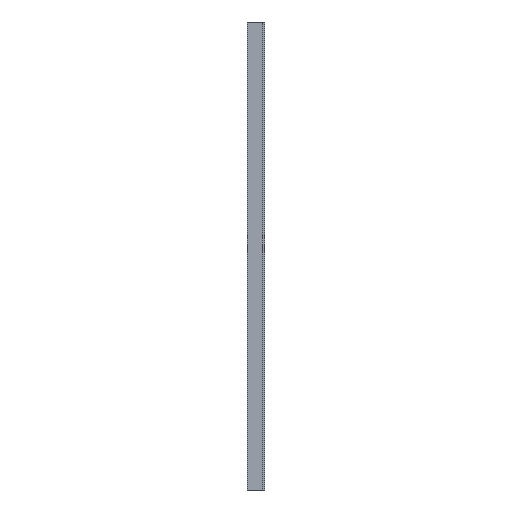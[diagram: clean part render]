
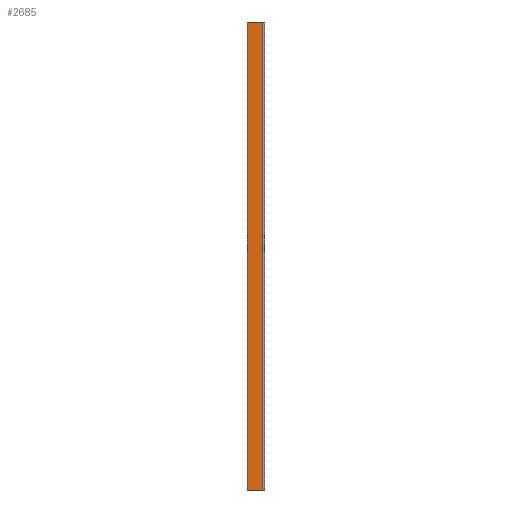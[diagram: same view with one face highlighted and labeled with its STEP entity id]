
A CAD part, front view. The second image highlights one B-rep face of the part: STEP entity #2685.
In plain terms, the highlighted planar face has unit normal (0, -1, 0).
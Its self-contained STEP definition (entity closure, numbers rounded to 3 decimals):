
#180 = EDGE_LOOP ( 'NONE', ( #1740, #7368, #5379, #1509 ) ) ;
#206 = VECTOR ( 'NONE', #390, 1000. ) ;
#390 = DIRECTION ( 'NONE',  ( 1., 0., 0. ) ) ;
#567 = CARTESIAN_POINT ( 'NONE',  ( 0., 0., 700. ) ) ;
#924 = VECTOR ( 'NONE', #7543, 1000. ) ;
#1019 = CARTESIAN_POINT ( 'NONE',  ( -75., 0., 34. ) ) ;
#1314 = CARTESIAN_POINT ( 'NONE',  ( 22., 0., 34. ) ) ;
#1398 = LINE ( 'NONE', #3340, #924 ) ;
#1406 = VECTOR ( 'NONE', #3124, 1000. ) ;
#1509 = ORIENTED_EDGE ( 'NONE', *, *, #6335, .F. ) ;
#1619 = FACE_OUTER_BOUND ( 'NONE', #180, .T. ) ;
#1740 = ORIENTED_EDGE ( 'NONE', *, *, #2146, .T. ) ;
#1894 = VERTEX_POINT ( 'NONE', #7248 ) ;
#2121 = AXIS2_PLACEMENT_3D ( 'NONE', #4927, #2626, #7346 ) ;
#2146 = EDGE_CURVE ( 'NONE', #3527, #1894, #1398, .T. ) ;
#2626 = DIRECTION ( 'NONE',  ( 0., 1., 0. ) ) ;
#2685 = ADVANCED_FACE ( 'NONE', ( #1619 ), #6758, .F. ) ;
#3053 = CARTESIAN_POINT ( 'NONE',  ( 0., 0., 700. ) ) ;
#3124 = DIRECTION ( 'NONE',  ( 1., 0., 0. ) ) ;
#3227 = VERTEX_POINT ( 'NONE', #5290 ) ;
#3302 = EDGE_CURVE ( 'NONE', #5354, #3227, #3969, .T. ) ;
#3340 = CARTESIAN_POINT ( 'NONE',  ( 0., 0., 700. ) ) ;
#3527 = VERTEX_POINT ( 'NONE', #567 ) ;
#3569 = CARTESIAN_POINT ( 'NONE',  ( 22., 0., 700. ) ) ;
#3792 = LINE ( 'NONE', #1019, #206 ) ;
#3969 = LINE ( 'NONE', #3569, #6113 ) ;
#4927 = CARTESIAN_POINT ( 'NONE',  ( 0., 0., 700. ) ) ;
#5290 = CARTESIAN_POINT ( 'NONE',  ( 22., 0., 700. ) ) ;
#5354 = VERTEX_POINT ( 'NONE', #1314 ) ;
#5379 = ORIENTED_EDGE ( 'NONE', *, *, #3302, .T. ) ;
#5570 = LINE ( 'NONE', #3053, #1406 ) ;
#6113 = VECTOR ( 'NONE', #7237, 1000. ) ;
#6335 = EDGE_CURVE ( 'NONE', #3527, #3227, #5570, .T. ) ;
#6651 = EDGE_CURVE ( 'NONE', #1894, #5354, #3792, .T. ) ;
#6758 = PLANE ( 'NONE',  #2121 ) ;
#7237 = DIRECTION ( 'NONE',  ( 0., 0., 1. ) ) ;
#7248 = CARTESIAN_POINT ( 'NONE',  ( 0., 0., 34. ) ) ;
#7346 = DIRECTION ( 'NONE',  ( 0., 0., 1. ) ) ;
#7368 = ORIENTED_EDGE ( 'NONE', *, *, #6651, .T. ) ;
#7543 = DIRECTION ( 'NONE',  ( 0., 0., -1. ) ) ;
